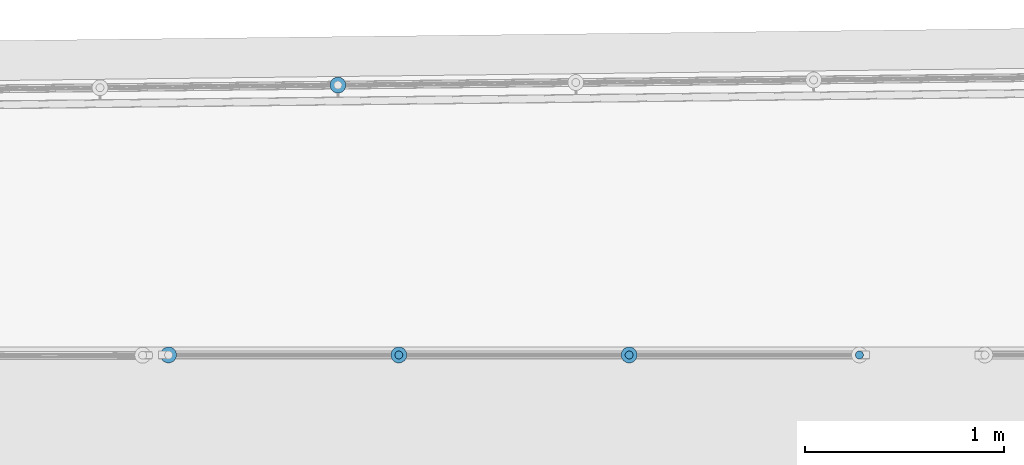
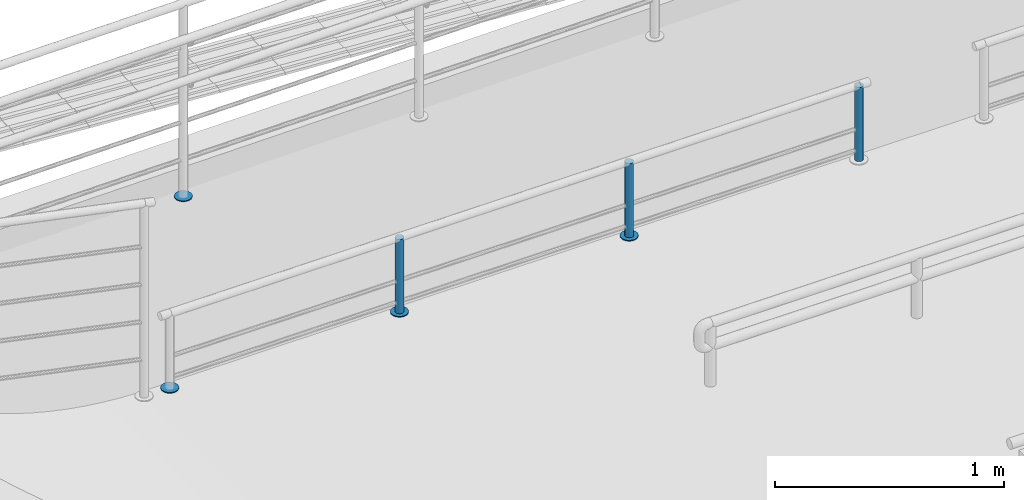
# One storey, part 98 of 237: 7 building element parts, 2 elements without a shape of their own.
"""IFC2X3 building model written with IfcOpenShell, lengths in millimetres."""

from ifc_helpers import new_model, entity, si_unit, converted_unit, derived_unit, money_unit, direction, frame, origin_with_axes, place, context, subcontext, project, spatial, faceted_brep, material, type_object, element, aggregate, save


model = new_model("IFC2X3")

# Units and contexts
model_context = context("Model", 3, precision=0.01, world=origin_with_axes(), true_north=direction((0.0, 1.0)))
body_context = subcontext(model_context, "Body", "Model", "MODEL_VIEW")
ifc_project = project(units=[si_unit("LENGTHUNIT", "METRE", prefix="MILLI"), si_unit("AREAUNIT", "SQUARE_METRE"), si_unit("VOLUMEUNIT", "CUBIC_METRE"), converted_unit("PLANEANGLEUNIT", "DEGREE", entity("IfcPlaneAngleMeasure", 0.0174532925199), si_unit("PLANEANGLEUNIT", "RADIAN"), dimensions=[0, 0, 0, 0, 0, 0, 0]), money_unit("USD"), converted_unit("TIMEUNIT", "Year", entity("IfcTimeMeasure", 31556926.0), si_unit("TIMEUNIT", "SECOND"), dimensions=[0, 0, 1, 0, 0, 0, 0]), si_unit("MASSUNIT", "GRAM", prefix="KILO"), si_unit("THERMODYNAMICTEMPERATUREUNIT", "DEGREE_CELSIUS"), si_unit("LUMINOUSINTENSITYUNIT", "LUMEN"), si_unit("ENERGYUNIT", "JOULE", prefix="MEGA"), derived_unit("THERMALCONDUCTANCEUNIT", [(si_unit("POWERUNIT", "WATT"), 1), (si_unit("LENGTHUNIT", "METRE"), -1), (si_unit("THERMODYNAMICTEMPERATUREUNIT", "KELVIN"), -1)]), derived_unit("SPECIFICHEATCAPACITYUNIT", [(si_unit("ENERGYUNIT", "JOULE"), 1), (si_unit("MASSUNIT", "GRAM", prefix="KILO"), -1), (si_unit("THERMODYNAMICTEMPERATUREUNIT", "KELVIN"), -1)]), derived_unit("MASSDENSITYUNIT", [(si_unit("MASSUNIT", "GRAM", prefix="KILO"), 1), (si_unit("VOLUMEUNIT", "CUBIC_METRE"), -1)])], contexts=[model_context])

# Site, building, storey
site_placement = place(None, origin_with_axes())
site = spatial("IfcSite", under=ifc_project, at=site_placement, Name="Local", CompositionType="ELEMENT")
building_placement = place(site_placement, origin_with_axes())
building = spatial("IfcBuilding", under=site, at=building_placement, Name="Construção", CompositionType="ELEMENT")
storey_placement = place(building_placement, origin_with_axes())
storey = spatial("IfcBuildingStorey", under=building, at=storey_placement, Name="Pavimento Térreo", CompositionType="ELEMENT", Elevation=0.0)

# Railing, building element parts
railing_type = type_object("IfcRailingType", Name="Tipo de Guarda-Corpo", PredefinedType="NOTDEFINED")
railing_1_placement = place(storey_placement, frame((57512.4440926, 33894.9362539, -1887.10818411), z_axis=(0.0, 0.0, 1.0), x_axis=(-1.0, 0.0, 0.0)))
railing_1 = element("IfcRailing", 1, at=railing_1_placement, inside=storey, type_object=railing_type, Name="Guarda-Corpo - 002", PredefinedType="NOTDEFINED")
ifc_material_1 = material(Name="Aço - Inoxidável")
building_element_part_1_placement = place(railing_1_placement, origin_with_axes())
building_element_part_1 = element("IfcBuildingElementPart", 2, at=building_element_part_1_placement, material=ifc_material_1, Name="Aço - Inoxidável", context=body_context, shape_type="Brep", body=[
    faceted_brep([(36.5270364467, 20.3038449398, 635.0), (40.0, 20.0, 635.0), (40.0, 20.0, 1030.0), (36.5270364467, 20.3038449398, 1030.0), (43.4729635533, 20.3038449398, 635.0), (33.1595971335, 21.2061475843, 635.0), (30.0, 22.6794919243, 635.0), (27.1442478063, 24.6791111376, 635.0), (24.6791111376, 27.1442478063, 635.0), (22.6794919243, 30.0, 635.0), (21.2061475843, 33.1595971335, 635.0), (20.3038449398, 36.5270364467, 635.0), (20.0, 40.0, 635.0), (20.3038449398, 43.4729635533, 635.0), (21.2061475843, 46.8404028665, 635.0), (22.6794919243, 50.0, 635.0), (24.6791111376, 52.8557521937, 635.0), (27.1442478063, 55.3208888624, 635.0), (30.0, 57.3205080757, 635.0), (33.1595971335, 58.7938524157, 635.0), (36.5270364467, 59.6961550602, 635.0), (40.0, 60.0, 635.0), (43.4729635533, 59.6961550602, 635.0), (46.8404028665, 58.7938524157, 635.0), (50.0, 57.3205080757, 635.0), (52.8557521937, 55.3208888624, 635.0), (55.3208888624, 52.8557521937, 635.0), (57.3205080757, 50.0, 635.0), (58.7938524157, 46.8404028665, 635.0), (59.6961550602, 43.4729635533, 635.0), (60.0, 40.0, 635.0), (59.6961550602, 36.5270364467, 635.0), (58.7938524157, 33.1595971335, 635.0), (57.3205080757, 30.0, 635.0), (55.3208888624, 27.1442478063, 635.0), (52.8557521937, 24.6791111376, 635.0), (50.0, 22.6794919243, 635.0), (46.8404028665, 21.2061475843, 635.0), (43.4729635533, 20.3038449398, 1030.0), (20.3038449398, 43.4729635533, 1030.0), (20.0, 40.0, 1030.0), (20.3038449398, 36.5270364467, 1030.0), (21.2061475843, 33.1595971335, 1030.0), (22.6794919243, 30.0, 1030.0), (24.6791111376, 27.1442478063, 1030.0), (27.1442478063, 24.6791111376, 1030.0), (30.0, 22.6794919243, 1030.0), (33.1595971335, 21.2061475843, 1030.0), (46.8404028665, 21.2061475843, 1030.0), (50.0, 22.6794919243, 1030.0), (52.8557521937, 24.6791111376, 1030.0), (55.3208888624, 27.1442478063, 1030.0), (57.3205080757, 30.0, 1030.0), (58.7938524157, 33.1595971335, 1030.0), (59.6961550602, 36.5270364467, 1030.0), (60.0, 40.0, 1030.0), (59.6961550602, 43.4729635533, 1030.0), (58.7938524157, 46.8404028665, 1030.0), (57.3205080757, 50.0, 1030.0), (55.3208888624, 52.8557521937, 1030.0), (52.8557521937, 55.3208888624, 1030.0), (50.0, 57.3205080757, 1030.0), (46.8404028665, 58.7938524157, 1030.0), (43.4729635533, 59.6961550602, 1030.0), (40.0, 60.0, 1030.0), (36.5270364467, 59.6961550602, 1030.0), (33.1595971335, 58.7938524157, 1030.0), (30.0, 57.3205080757, 1030.0), (27.1442478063, 55.3208888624, 1030.0), (24.6791111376, 52.8557521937, 1030.0), (22.6794919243, 50.0, 1030.0), (21.2061475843, 46.8404028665, 1030.0)], [[[0, 1, 2, 3]], [[4, 1, 0, 5, 6, 7, 8, 9, 10, 11, 12, 13, 14, 15, 16, 17, 18, 19, 20, 21, 22, 23, 24, 25, 26, 27, 28, 29, 30, 31, 32, 33, 34, 35, 36, 37]], [[1, 4, 38, 2]], [[39, 40, 41, 42, 43, 44, 45, 46, 47, 3, 2, 38, 48, 49, 50, 51, 52, 53, 54, 55, 56, 57, 58, 59, 60, 61, 62, 63, 64, 65, 66, 67, 68, 69, 70, 71]], [[5, 0, 3, 47]], [[6, 5, 47, 46]], [[7, 6, 46, 45]], [[8, 7, 45, 44]], [[9, 8, 44, 43]], [[10, 9, 43, 42]], [[11, 10, 42, 41]], [[12, 11, 41, 40]], [[13, 12, 40, 39]], [[14, 13, 39, 71]], [[15, 14, 71, 70]], [[16, 15, 70, 69]], [[17, 16, 69, 68]], [[18, 17, 68, 67]], [[19, 18, 67, 66]], [[20, 19, 66, 65]], [[21, 20, 65, 64]], [[22, 21, 64, 63]], [[23, 22, 63, 62]], [[24, 23, 62, 61]], [[25, 24, 61, 60]], [[26, 25, 60, 59]], [[27, 26, 59, 58]], [[28, 27, 58, 57]], [[29, 28, 57, 56]], [[30, 29, 56, 55]], [[31, 30, 55, 54]], [[32, 31, 54, 53]], [[33, 32, 53, 52]], [[34, 33, 52, 51]], [[35, 34, 51, 50]], [[36, 35, 50, 49]], [[37, 36, 49, 48]], [[4, 37, 48, 38]]]),
])
ifc_material_2 = material(Name="Alumínio")
building_element_part_2_placement = place(railing_1_placement, origin_with_axes())
building_element_part_2 = element("IfcBuildingElementPart", 3, at=building_element_part_2_placement, material=ifc_material_2, Name="Alumínio", context=body_context, shape_type="Brep", body=[
    faceted_brep([(3550.0, 40.0, 630.0), (3549.39231012, 46.9459271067, 630.0), (3549.39231012, 46.9459271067, 635.0), (3550.0, 40.0, 635.0), (3549.39231012, 33.0540728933, 630.0), (3547.58770483, 26.319194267, 630.0), (3544.64101615, 20.0, 630.0), (3540.64177772, 14.2884956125, 630.0), (3535.71150439, 9.35822227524, 630.0), (3530.0, 5.35898384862, 630.0), (3523.68080573, 2.41229516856, 630.0), (3516.94592711, 0.607689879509, 630.0), (3510.0, 0.0, 630.0), (3503.05407289, 0.607689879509, 630.0), (3496.31919427, 2.41229516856, 630.0), (3490.0, 5.35898384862, 630.0), (3484.28849561, 9.35822227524, 630.0), (3479.35822228, 14.2884956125, 630.0), (3475.35898385, 20.0, 630.0), (3472.41229517, 26.319194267, 630.0), (3470.60768988, 33.0540728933, 630.0), (3470.0, 40.0, 630.0), (3470.60768988, 46.9459271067, 630.0), (3472.41229517, 53.680805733, 630.0), (3475.35898385, 60.0, 630.0), (3479.35822228, 65.7115043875, 630.0), (3484.28849561, 70.6417777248, 630.0), (3490.0, 74.6410161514, 630.0), (3496.31919427, 77.5877048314, 630.0), (3503.05407289, 79.3923101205, 630.0), (3510.0, 80.0, 630.0), (3516.94592711, 79.3923101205, 630.0), (3523.68080573, 77.5877048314, 630.0), (3530.0, 74.6410161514, 630.0), (3535.71150439, 70.6417777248, 630.0), (3540.64177772, 65.7115043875, 630.0), (3544.64101615, 60.0, 630.0), (3547.58770483, 53.680805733, 630.0), (3547.58770483, 53.680805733, 635.0), (3544.64101615, 60.0, 635.0), (3540.64177772, 65.7115043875, 635.0), (3535.71150439, 70.6417777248, 635.0), (3530.0, 74.6410161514, 635.0), (3523.68080573, 77.5877048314, 635.0), (3516.94592711, 79.3923101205, 635.0), (3510.0, 80.0, 635.0), (3503.05407289, 79.3923101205, 635.0), (3496.31919427, 77.5877048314, 635.0), (3490.0, 74.6410161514, 635.0), (3484.28849561, 70.6417777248, 635.0), (3479.35822228, 65.7115043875, 635.0), (3475.35898385, 60.0, 635.0), (3472.41229517, 53.680805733, 635.0), (3470.60768988, 46.9459271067, 635.0), (3470.0, 40.0, 635.0), (3470.60768988, 33.0540728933, 635.0), (3472.41229517, 26.319194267, 635.0), (3475.35898385, 20.0, 635.0), (3479.35822228, 14.2884956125, 635.0), (3484.28849561, 9.35822227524, 635.0), (3490.0, 5.35898384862, 635.0), (3496.31919427, 2.41229516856, 635.0), (3503.05407289, 0.607689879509, 635.0), (3510.0, 0.0, 635.0), (3516.94592711, 0.607689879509, 635.0), (3523.68080573, 2.41229516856, 635.0), (3530.0, 5.35898384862, 635.0), (3535.71150439, 9.35822227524, 635.0), (3540.64177772, 14.2884956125, 635.0), (3544.64101615, 20.0, 635.0), (3547.58770483, 26.319194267, 635.0), (3549.39231012, 33.0540728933, 635.0)], [[[0, 1, 2, 3]], [[0, 4, 5, 6, 7, 8, 9, 10, 11, 12, 13, 14, 15, 16, 17, 18, 19, 20, 21, 22, 23, 24, 25, 26, 27, 28, 29, 30, 31, 32, 33, 34, 35, 36, 37, 1]], [[1, 37, 38, 2]], [[3, 2, 38, 39, 40, 41, 42, 43, 44, 45, 46, 47, 48, 49, 50, 51, 52, 53, 54, 55, 56, 57, 58, 59, 60, 61, 62, 63, 64, 65, 66, 67, 68, 69, 70, 71]], [[4, 0, 3, 71]], [[5, 4, 71, 70]], [[6, 5, 70, 69]], [[7, 6, 69, 68]], [[8, 7, 68, 67]], [[9, 8, 67, 66]], [[10, 9, 66, 65]], [[11, 10, 65, 64]], [[12, 11, 64, 63]], [[13, 12, 63, 62]], [[14, 13, 62, 61]], [[15, 14, 61, 60]], [[16, 15, 60, 59]], [[17, 16, 59, 58]], [[18, 17, 58, 57]], [[19, 18, 57, 56]], [[20, 19, 56, 55]], [[21, 20, 55, 54]], [[22, 21, 54, 53]], [[23, 22, 53, 52]], [[24, 23, 52, 51]], [[25, 24, 51, 50]], [[26, 25, 50, 49]], [[27, 26, 49, 48]], [[28, 27, 48, 47]], [[29, 28, 47, 46]], [[30, 29, 46, 45]], [[31, 30, 45, 44]], [[32, 31, 44, 43]], [[33, 32, 43, 42]], [[34, 33, 42, 41]], [[35, 34, 41, 40]], [[36, 35, 40, 39]], [[37, 36, 39, 38]]]),
])
building_element_part_3_placement = place(railing_1_placement, origin_with_axes())
building_element_part_3 = element("IfcBuildingElementPart", 4, at=building_element_part_3_placement, material=ifc_material_1, Name="Aço - Inoxidável", context=body_context, shape_type="Brep", body=[
    faceted_brep([(1193.19370311, 20.3038449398, 635.0), (1196.66666667, 20.0, 635.0), (1196.66666667, 20.0, 1030.0), (1193.19370311, 20.3038449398, 1030.0), (1200.13963022, 20.3038449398, 635.0), (1189.8262638, 21.2061475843, 635.0), (1186.66666667, 22.6794919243, 635.0), (1183.81091447, 24.6791111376, 635.0), (1181.3457778, 27.1442478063, 635.0), (1179.34615859, 30.0, 635.0), (1177.87281425, 33.1595971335, 635.0), (1176.97051161, 36.5270364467, 635.0), (1176.66666667, 40.0, 635.0), (1176.97051161, 43.4729635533, 635.0), (1177.87281425, 46.8404028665, 635.0), (1179.34615859, 50.0, 635.0), (1181.3457778, 52.8557521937, 635.0), (1183.81091447, 55.3208888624, 635.0), (1186.66666667, 57.3205080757, 635.0), (1189.8262638, 58.7938524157, 635.0), (1193.19370311, 59.6961550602, 635.0), (1196.66666667, 60.0, 635.0), (1200.13963022, 59.6961550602, 635.0), (1203.50706953, 58.7938524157, 635.0), (1206.66666667, 57.3205080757, 635.0), (1209.52241886, 55.3208888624, 635.0), (1211.98755553, 52.8557521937, 635.0), (1213.98717474, 50.0, 635.0), (1215.46051908, 46.8404028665, 635.0), (1216.36282173, 43.4729635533, 635.0), (1216.66666667, 40.0, 635.0), (1216.36282173, 36.5270364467, 635.0), (1215.46051908, 33.1595971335, 635.0), (1213.98717474, 30.0, 635.0), (1211.98755553, 27.1442478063, 635.0), (1209.52241886, 24.6791111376, 635.0), (1206.66666667, 22.6794919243, 635.0), (1203.50706953, 21.2061475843, 635.0), (1200.13963022, 20.3038449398, 1030.0), (1176.97051161, 43.4729635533, 1030.0), (1176.66666667, 40.0, 1030.0), (1176.97051161, 36.5270364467, 1030.0), (1177.87281425, 33.1595971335, 1030.0), (1179.34615859, 30.0, 1030.0), (1181.3457778, 27.1442478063, 1030.0), (1183.81091447, 24.6791111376, 1030.0), (1186.66666667, 22.6794919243, 1030.0), (1189.8262638, 21.2061475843, 1030.0), (1203.50706953, 21.2061475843, 1030.0), (1206.66666667, 22.6794919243, 1030.0), (1209.52241886, 24.6791111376, 1030.0), (1211.98755553, 27.1442478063, 1030.0), (1213.98717474, 30.0, 1030.0), (1215.46051908, 33.1595971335, 1030.0), (1216.36282173, 36.5270364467, 1030.0), (1216.66666667, 40.0, 1030.0), (1216.36282173, 43.4729635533, 1030.0), (1215.46051908, 46.8404028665, 1030.0), (1213.98717474, 50.0, 1030.0), (1211.98755553, 52.8557521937, 1030.0), (1209.52241886, 55.3208888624, 1030.0), (1206.66666667, 57.3205080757, 1030.0), (1203.50706953, 58.7938524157, 1030.0), (1200.13963022, 59.6961550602, 1030.0), (1196.66666667, 60.0, 1030.0), (1193.19370311, 59.6961550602, 1030.0), (1189.8262638, 58.7938524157, 1030.0), (1186.66666667, 57.3205080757, 1030.0), (1183.81091447, 55.3208888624, 1030.0), (1181.3457778, 52.8557521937, 1030.0), (1179.34615859, 50.0, 1030.0), (1177.87281425, 46.8404028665, 1030.0)], [[[0, 1, 2, 3]], [[4, 1, 0, 5, 6, 7, 8, 9, 10, 11, 12, 13, 14, 15, 16, 17, 18, 19, 20, 21, 22, 23, 24, 25, 26, 27, 28, 29, 30, 31, 32, 33, 34, 35, 36, 37]], [[1, 4, 38, 2]], [[39, 40, 41, 42, 43, 44, 45, 46, 47, 3, 2, 38, 48, 49, 50, 51, 52, 53, 54, 55, 56, 57, 58, 59, 60, 61, 62, 63, 64, 65, 66, 67, 68, 69, 70, 71]], [[5, 0, 3, 47]], [[6, 5, 47, 46]], [[7, 6, 46, 45]], [[8, 7, 45, 44]], [[9, 8, 44, 43]], [[10, 9, 43, 42]], [[11, 10, 42, 41]], [[12, 11, 41, 40]], [[13, 12, 40, 39]], [[14, 13, 39, 71]], [[15, 14, 71, 70]], [[16, 15, 70, 69]], [[17, 16, 69, 68]], [[18, 17, 68, 67]], [[19, 18, 67, 66]], [[20, 19, 66, 65]], [[21, 20, 65, 64]], [[22, 21, 64, 63]], [[23, 22, 63, 62]], [[24, 23, 62, 61]], [[25, 24, 61, 60]], [[26, 25, 60, 59]], [[27, 26, 59, 58]], [[28, 27, 58, 57]], [[29, 28, 57, 56]], [[30, 29, 56, 55]], [[31, 30, 55, 54]], [[32, 31, 54, 53]], [[33, 32, 53, 52]], [[34, 33, 52, 51]], [[35, 34, 51, 50]], [[36, 35, 50, 49]], [[37, 36, 49, 48]], [[4, 37, 48, 38]]]),
])
building_element_part_4_placement = place(railing_1_placement, origin_with_axes())
building_element_part_4 = element("IfcBuildingElementPart", 5, at=building_element_part_4_placement, material=ifc_material_2, Name="Alumínio", context=body_context, shape_type="Brep", body=[
    faceted_brep([(1236.66666667, 40.0, 630.0), (1236.05897679, 46.9459271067, 630.0), (1236.05897679, 46.9459271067, 635.0), (1236.66666667, 40.0, 635.0), (1236.05897679, 33.0540728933, 630.0), (1234.2543715, 26.319194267, 630.0), (1231.30768282, 20.0, 630.0), (1227.30844439, 14.2884956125, 630.0), (1222.37817105, 9.35822227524, 630.0), (1216.66666667, 5.35898384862, 630.0), (1210.3474724, 2.41229516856, 630.0), (1203.61259377, 0.607689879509, 630.0), (1196.66666667, 0.0, 630.0), (1189.72073956, 0.607689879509, 630.0), (1182.98586093, 2.41229516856, 630.0), (1176.66666667, 5.35898384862, 630.0), (1170.95516228, 9.35822227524, 630.0), (1166.02488894, 14.2884956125, 630.0), (1162.02565052, 20.0, 630.0), (1159.07896184, 26.319194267, 630.0), (1157.27435655, 33.0540728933, 630.0), (1156.66666667, 40.0, 630.0), (1157.27435655, 46.9459271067, 630.0), (1159.07896184, 53.680805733, 630.0), (1162.02565052, 60.0, 630.0), (1166.02488894, 65.7115043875, 630.0), (1170.95516228, 70.6417777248, 630.0), (1176.66666667, 74.6410161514, 630.0), (1182.98586093, 77.5877048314, 630.0), (1189.72073956, 79.3923101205, 630.0), (1196.66666667, 80.0, 630.0), (1203.61259377, 79.3923101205, 630.0), (1210.3474724, 77.5877048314, 630.0), (1216.66666667, 74.6410161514, 630.0), (1222.37817105, 70.6417777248, 630.0), (1227.30844439, 65.7115043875, 630.0), (1231.30768282, 60.0, 630.0), (1234.2543715, 53.680805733, 630.0), (1234.2543715, 53.680805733, 635.0), (1231.30768282, 60.0, 635.0), (1227.30844439, 65.7115043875, 635.0), (1222.37817105, 70.6417777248, 635.0), (1216.66666667, 74.6410161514, 635.0), (1210.3474724, 77.5877048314, 635.0), (1203.61259377, 79.3923101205, 635.0), (1196.66666667, 80.0, 635.0), (1189.72073956, 79.3923101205, 635.0), (1182.98586093, 77.5877048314, 635.0), (1176.66666667, 74.6410161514, 635.0), (1170.95516228, 70.6417777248, 635.0), (1166.02488894, 65.7115043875, 635.0), (1162.02565052, 60.0, 635.0), (1159.07896184, 53.680805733, 635.0), (1157.27435655, 46.9459271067, 635.0), (1156.66666667, 40.0, 635.0), (1157.27435655, 33.0540728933, 635.0), (1159.07896184, 26.319194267, 635.0), (1162.02565052, 20.0, 635.0), (1166.02488894, 14.2884956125, 635.0), (1170.95516228, 9.35822227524, 635.0), (1176.66666667, 5.35898384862, 635.0), (1182.98586093, 2.41229516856, 635.0), (1189.72073956, 0.607689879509, 635.0), (1196.66666667, 0.0, 635.0), (1203.61259377, 0.607689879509, 635.0), (1210.3474724, 2.41229516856, 635.0), (1216.66666667, 5.35898384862, 635.0), (1222.37817105, 9.35822227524, 635.0), (1227.30844439, 14.2884956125, 635.0), (1231.30768282, 20.0, 635.0), (1234.2543715, 26.319194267, 635.0), (1236.05897679, 33.0540728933, 635.0)], [[[0, 1, 2, 3]], [[0, 4, 5, 6, 7, 8, 9, 10, 11, 12, 13, 14, 15, 16, 17, 18, 19, 20, 21, 22, 23, 24, 25, 26, 27, 28, 29, 30, 31, 32, 33, 34, 35, 36, 37, 1]], [[1, 37, 38, 2]], [[3, 2, 38, 39, 40, 41, 42, 43, 44, 45, 46, 47, 48, 49, 50, 51, 52, 53, 54, 55, 56, 57, 58, 59, 60, 61, 62, 63, 64, 65, 66, 67, 68, 69, 70, 71]], [[4, 0, 3, 71]], [[5, 4, 71, 70]], [[6, 5, 70, 69]], [[7, 6, 69, 68]], [[8, 7, 68, 67]], [[9, 8, 67, 66]], [[10, 9, 66, 65]], [[11, 10, 65, 64]], [[12, 11, 64, 63]], [[13, 12, 63, 62]], [[14, 13, 62, 61]], [[15, 14, 61, 60]], [[16, 15, 60, 59]], [[17, 16, 59, 58]], [[18, 17, 58, 57]], [[19, 18, 57, 56]], [[20, 19, 56, 55]], [[21, 20, 55, 54]], [[22, 21, 54, 53]], [[23, 22, 53, 52]], [[24, 23, 52, 51]], [[25, 24, 51, 50]], [[26, 25, 50, 49]], [[27, 26, 49, 48]], [[28, 27, 48, 47]], [[29, 28, 47, 46]], [[30, 29, 46, 45]], [[31, 30, 45, 44]], [[32, 31, 44, 43]], [[33, 32, 43, 42]], [[34, 33, 42, 41]], [[35, 34, 41, 40]], [[36, 35, 40, 39]], [[37, 36, 39, 38]]]),
])
building_element_part_5_placement = place(railing_1_placement, origin_with_axes())
building_element_part_5 = element("IfcBuildingElementPart", 6, at=building_element_part_5_placement, material=ifc_material_1, Name="Aço - Inoxidável", context=body_context, shape_type="Brep", body=[
    faceted_brep([(2349.86036978, 20.3038449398, 635.0), (2353.33333333, 20.0, 635.0), (2353.33333333, 20.0, 1030.0), (2349.86036978, 20.3038449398, 1030.0), (2356.80629689, 20.3038449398, 635.0), (2346.49293047, 21.2061475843, 635.0), (2343.33333333, 22.6794919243, 635.0), (2340.47758114, 24.6791111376, 635.0), (2338.01244447, 27.1442478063, 635.0), (2336.01282526, 30.0, 635.0), (2334.53948092, 33.1595971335, 635.0), (2333.63717827, 36.5270364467, 635.0), (2333.33333333, 40.0, 635.0), (2333.63717827, 43.4729635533, 635.0), (2334.53948092, 46.8404028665, 635.0), (2336.01282526, 50.0, 635.0), (2338.01244447, 52.8557521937, 635.0), (2340.47758114, 55.3208888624, 635.0), (2343.33333333, 57.3205080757, 635.0), (2346.49293047, 58.7938524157, 635.0), (2349.86036978, 59.6961550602, 635.0), (2353.33333333, 60.0, 635.0), (2356.80629689, 59.6961550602, 635.0), (2360.1737362, 58.7938524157, 635.0), (2363.33333333, 57.3205080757, 635.0), (2366.18908553, 55.3208888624, 635.0), (2368.6542222, 52.8557521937, 635.0), (2370.65384141, 50.0, 635.0), (2372.12718575, 46.8404028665, 635.0), (2373.02948839, 43.4729635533, 635.0), (2373.33333333, 40.0, 635.0), (2373.02948839, 36.5270364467, 635.0), (2372.12718575, 33.1595971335, 635.0), (2370.65384141, 30.0, 635.0), (2368.6542222, 27.1442478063, 635.0), (2366.18908553, 24.6791111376, 635.0), (2363.33333333, 22.6794919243, 635.0), (2360.1737362, 21.2061475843, 635.0), (2356.80629689, 20.3038449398, 1030.0), (2333.63717827, 43.4729635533, 1030.0), (2333.33333333, 40.0, 1030.0), (2333.63717827, 36.5270364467, 1030.0), (2334.53948092, 33.1595971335, 1030.0), (2336.01282526, 30.0, 1030.0), (2338.01244447, 27.1442478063, 1030.0), (2340.47758114, 24.6791111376, 1030.0), (2343.33333333, 22.6794919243, 1030.0), (2346.49293047, 21.2061475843, 1030.0), (2360.1737362, 21.2061475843, 1030.0), (2363.33333333, 22.6794919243, 1030.0), (2366.18908553, 24.6791111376, 1030.0), (2368.6542222, 27.1442478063, 1030.0), (2370.65384141, 30.0, 1030.0), (2372.12718575, 33.1595971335, 1030.0), (2373.02948839, 36.5270364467, 1030.0), (2373.33333333, 40.0, 1030.0), (2373.02948839, 43.4729635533, 1030.0), (2372.12718575, 46.8404028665, 1030.0), (2370.65384141, 50.0, 1030.0), (2368.6542222, 52.8557521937, 1030.0), (2366.18908553, 55.3208888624, 1030.0), (2363.33333333, 57.3205080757, 1030.0), (2360.1737362, 58.7938524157, 1030.0), (2356.80629689, 59.6961550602, 1030.0), (2353.33333333, 60.0, 1030.0), (2349.86036978, 59.6961550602, 1030.0), (2346.49293047, 58.7938524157, 1030.0), (2343.33333333, 57.3205080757, 1030.0), (2340.47758114, 55.3208888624, 1030.0), (2338.01244447, 52.8557521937, 1030.0), (2336.01282526, 50.0, 1030.0), (2334.53948092, 46.8404028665, 1030.0)], [[[0, 1, 2, 3]], [[4, 1, 0, 5, 6, 7, 8, 9, 10, 11, 12, 13, 14, 15, 16, 17, 18, 19, 20, 21, 22, 23, 24, 25, 26, 27, 28, 29, 30, 31, 32, 33, 34, 35, 36, 37]], [[1, 4, 38, 2]], [[39, 40, 41, 42, 43, 44, 45, 46, 47, 3, 2, 38, 48, 49, 50, 51, 52, 53, 54, 55, 56, 57, 58, 59, 60, 61, 62, 63, 64, 65, 66, 67, 68, 69, 70, 71]], [[5, 0, 3, 47]], [[6, 5, 47, 46]], [[7, 6, 46, 45]], [[8, 7, 45, 44]], [[9, 8, 44, 43]], [[10, 9, 43, 42]], [[11, 10, 42, 41]], [[12, 11, 41, 40]], [[13, 12, 40, 39]], [[14, 13, 39, 71]], [[15, 14, 71, 70]], [[16, 15, 70, 69]], [[17, 16, 69, 68]], [[18, 17, 68, 67]], [[19, 18, 67, 66]], [[20, 19, 66, 65]], [[21, 20, 65, 64]], [[22, 21, 64, 63]], [[23, 22, 63, 62]], [[24, 23, 62, 61]], [[25, 24, 61, 60]], [[26, 25, 60, 59]], [[27, 26, 59, 58]], [[28, 27, 58, 57]], [[29, 28, 57, 56]], [[30, 29, 56, 55]], [[31, 30, 55, 54]], [[32, 31, 54, 53]], [[33, 32, 53, 52]], [[34, 33, 52, 51]], [[35, 34, 51, 50]], [[36, 35, 50, 49]], [[37, 36, 49, 48]], [[4, 37, 48, 38]]]),
])
building_element_part_6_placement = place(railing_1_placement, origin_with_axes())
building_element_part_6 = element("IfcBuildingElementPart", 7, at=building_element_part_6_placement, material=ifc_material_2, Name="Alumínio", context=body_context, shape_type="Brep", body=[
    faceted_brep([(2393.33333333, 40.0, 630.0), (2392.72564345, 46.9459271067, 630.0), (2392.72564345, 46.9459271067, 635.0), (2393.33333333, 40.0, 635.0), (2392.72564345, 33.0540728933, 630.0), (2390.92103816, 26.319194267, 630.0), (2387.97434948, 20.0, 630.0), (2383.97511106, 14.2884956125, 630.0), (2379.04483772, 9.35822227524, 630.0), (2373.33333333, 5.35898384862, 630.0), (2367.01413907, 2.41229516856, 630.0), (2360.27926044, 0.607689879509, 630.0), (2353.33333333, 0.0, 630.0), (2346.38740623, 0.607689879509, 630.0), (2339.6525276, 2.41229516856, 630.0), (2333.33333333, 5.35898384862, 630.0), (2327.62182895, 9.35822227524, 630.0), (2322.69155561, 14.2884956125, 630.0), (2318.69231718, 20.0, 630.0), (2315.7456285, 26.319194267, 630.0), (2313.94102321, 33.0540728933, 630.0), (2313.33333333, 40.0, 630.0), (2313.94102321, 46.9459271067, 630.0), (2315.7456285, 53.680805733, 630.0), (2318.69231718, 60.0, 630.0), (2322.69155561, 65.7115043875, 630.0), (2327.62182895, 70.6417777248, 630.0), (2333.33333333, 74.6410161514, 630.0), (2339.6525276, 77.5877048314, 630.0), (2346.38740623, 79.3923101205, 630.0), (2353.33333333, 80.0, 630.0), (2360.27926044, 79.3923101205, 630.0), (2367.01413907, 77.5877048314, 630.0), (2373.33333333, 74.6410161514, 630.0), (2379.04483772, 70.6417777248, 630.0), (2383.97511106, 65.7115043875, 630.0), (2387.97434948, 60.0, 630.0), (2390.92103816, 53.680805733, 630.0), (2390.92103816, 53.680805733, 635.0), (2387.97434948, 60.0, 635.0), (2383.97511106, 65.7115043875, 635.0), (2379.04483772, 70.6417777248, 635.0), (2373.33333333, 74.6410161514, 635.0), (2367.01413907, 77.5877048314, 635.0), (2360.27926044, 79.3923101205, 635.0), (2353.33333333, 80.0, 635.0), (2346.38740623, 79.3923101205, 635.0), (2339.6525276, 77.5877048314, 635.0), (2333.33333333, 74.6410161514, 635.0), (2327.62182895, 70.6417777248, 635.0), (2322.69155561, 65.7115043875, 635.0), (2318.69231718, 60.0, 635.0), (2315.7456285, 53.680805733, 635.0), (2313.94102321, 46.9459271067, 635.0), (2313.33333333, 40.0, 635.0), (2313.94102321, 33.0540728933, 635.0), (2315.7456285, 26.319194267, 635.0), (2318.69231718, 20.0, 635.0), (2322.69155561, 14.2884956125, 635.0), (2327.62182895, 9.35822227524, 635.0), (2333.33333333, 5.35898384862, 635.0), (2339.6525276, 2.41229516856, 635.0), (2346.38740623, 0.607689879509, 635.0), (2353.33333333, 0.0, 635.0), (2360.27926044, 0.607689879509, 635.0), (2367.01413907, 2.41229516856, 635.0), (2373.33333333, 5.35898384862, 635.0), (2379.04483772, 9.35822227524, 635.0), (2383.97511106, 14.2884956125, 635.0), (2387.97434948, 20.0, 635.0), (2390.92103816, 26.319194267, 635.0), (2392.72564345, 33.0540728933, 635.0)], [[[0, 1, 2, 3]], [[0, 4, 5, 6, 7, 8, 9, 10, 11, 12, 13, 14, 15, 16, 17, 18, 19, 20, 21, 22, 23, 24, 25, 26, 27, 28, 29, 30, 31, 32, 33, 34, 35, 36, 37, 1]], [[1, 37, 38, 2]], [[3, 2, 38, 39, 40, 41, 42, 43, 44, 45, 46, 47, 48, 49, 50, 51, 52, 53, 54, 55, 56, 57, 58, 59, 60, 61, 62, 63, 64, 65, 66, 67, 68, 69, 70, 71]], [[4, 0, 3, 71]], [[5, 4, 71, 70]], [[6, 5, 70, 69]], [[7, 6, 69, 68]], [[8, 7, 68, 67]], [[9, 8, 67, 66]], [[10, 9, 66, 65]], [[11, 10, 65, 64]], [[12, 11, 64, 63]], [[13, 12, 63, 62]], [[14, 13, 62, 61]], [[15, 14, 61, 60]], [[16, 15, 60, 59]], [[17, 16, 59, 58]], [[18, 17, 58, 57]], [[19, 18, 57, 56]], [[20, 19, 56, 55]], [[21, 20, 55, 54]], [[22, 21, 54, 53]], [[23, 22, 53, 52]], [[24, 23, 52, 51]], [[25, 24, 51, 50]], [[26, 25, 50, 49]], [[27, 26, 49, 48]], [[28, 27, 48, 47]], [[29, 28, 47, 46]], [[30, 29, 46, 45]], [[31, 30, 45, 44]], [[32, 31, 44, 43]], [[33, 32, 43, 42]], [[34, 33, 42, 41]], [[35, 34, 41, 40]], [[36, 35, 40, 39]], [[37, 36, 39, 38]]]),
])
aggregate(railing_1, [building_element_part_1, building_element_part_2, building_element_part_3, building_element_part_4, building_element_part_5, building_element_part_6])

# Railing, building element part
railing_2_placement = place(storey_placement, frame((70326.6870103, 28675.2458388, -1357.10819655), z_axis=(0.0, 0.0, 1.0), x_axis=(1.0, 0.0, 0.0)))
railing_2 = element("IfcRailing", 8, at=railing_2_placement, inside=storey, type_object=railing_type, Name="Guarda-Corpo - 004", PredefinedType="NOTDEFINED")
building_element_part_7_placement = place(railing_2_placement, origin_with_axes())
building_element_part_7 = element("IfcBuildingElementPart", 9, at=building_element_part_7_placement, material=ifc_material_2, Name="Alumínio", context=body_context, shape_type="Brep", body=[
    faceted_brep([(-15513.6108898, 6534.62460551, 0.0), (-15512.9276917, 6527.68569848, 0.0), (-15512.9276917, 6527.68569848, 5.0), (-15513.6108898, 6534.62460551, 5.0), (-15513.07878, 6541.57673105, 0.0), (-15511.3475302, 6548.33083828, 0.0), (-15508.4697435, 6554.68170708, 0.0), (-15504.5328602, 6560.43636951, 0.0), (-15499.6565003, 6565.41997306, 0.0), (-15493.9888295, 6569.48109346, 0.0), (-15487.7020573, 6572.49633562, 0.0), (-15480.987204, 6574.37408295, 0.0), (-15474.0482969, 6575.05728102, 0.0), (-15467.0961714, 6574.52517122, 0.0), (-15460.3420642, 6572.79392143, 0.0), (-15453.9911954, 6569.91613481, 0.0), (-15448.2365329, 6565.97925143, 0.0), (-15443.2529294, 6561.10289152, 0.0), (-15439.191809, 6555.43522079, 0.0), (-15436.1765668, 6549.14844857, 0.0), (-15434.2988195, 6542.43359523, 0.0), (-15433.6156214, 6535.4946882, 0.0), (-15434.1477312, 6528.54256266, 0.0), (-15435.878981, 6521.78845542, 0.0), (-15438.7567676, 6515.43758663, 0.0), (-15442.693651, 6509.6829242, 0.0), (-15447.5700109, 6504.69932065, 0.0), (-15453.2376816, 6500.63820024, 0.0), (-15459.5244539, 6497.62295808, 0.0), (-15466.2393072, 6495.74521076, 0.0), (-15473.1782142, 6495.06201268, 0.0), (-15480.1303398, 6495.59412248, 0.0), (-15486.884447, 6497.32537227, 0.0), (-15493.2353158, 6500.2031589, 0.0), (-15498.9899782, 6504.14004227, 0.0), (-15503.9735818, 6509.01640219, 0.0), (-15508.0347022, 6514.68407291, 0.0), (-15511.0499444, 6520.97084514, 0.0), (-15511.0499444, 6520.97084514, 5.0), (-15508.0347022, 6514.68407291, 5.0), (-15503.9735818, 6509.01640219, 5.0), (-15498.9899782, 6504.14004227, 5.0), (-15493.2353158, 6500.2031589, 5.0), (-15486.884447, 6497.32537227, 5.0), (-15480.1303398, 6495.59412248, 5.0), (-15473.1782142, 6495.06201268, 5.0), (-15466.2393072, 6495.74521076, 5.0), (-15459.5244539, 6497.62295808, 5.0), (-15453.2376816, 6500.63820024, 5.0), (-15447.5700109, 6504.69932065, 5.0), (-15442.693651, 6509.6829242, 5.0), (-15438.7567676, 6515.43758663, 5.0), (-15435.878981, 6521.78845542, 5.0), (-15434.1477312, 6528.54256266, 5.0), (-15433.6156214, 6535.4946882, 5.0), (-15434.2988195, 6542.43359523, 5.0), (-15436.1765668, 6549.14844857, 5.0), (-15439.191809, 6555.43522079, 5.0), (-15443.2529294, 6561.10289152, 5.0), (-15448.2365329, 6565.97925143, 5.0), (-15453.9911954, 6569.91613481, 5.0), (-15460.3420642, 6572.79392143, 5.0), (-15467.0961714, 6574.52517122, 5.0), (-15474.0482969, 6575.05728102, 5.0), (-15480.987204, 6574.37408295, 5.0), (-15487.7020573, 6572.49633562, 5.0), (-15493.9888295, 6569.48109346, 5.0), (-15499.6565003, 6565.41997306, 5.0), (-15504.5328602, 6560.43636951, 5.0), (-15508.4697435, 6554.68170708, 5.0), (-15511.3475302, 6548.33083828, 5.0), (-15513.07878, 6541.57673105, 5.0)], [[[0, 1, 2, 3]], [[0, 4, 5, 6, 7, 8, 9, 10, 11, 12, 13, 14, 15, 16, 17, 18, 19, 20, 21, 22, 23, 24, 25, 26, 27, 28, 29, 30, 31, 32, 33, 34, 35, 36, 37, 1]], [[1, 37, 38, 2]], [[3, 2, 38, 39, 40, 41, 42, 43, 44, 45, 46, 47, 48, 49, 50, 51, 52, 53, 54, 55, 56, 57, 58, 59, 60, 61, 62, 63, 64, 65, 66, 67, 68, 69, 70, 71]], [[4, 0, 3, 71]], [[5, 4, 71, 70]], [[6, 5, 70, 69]], [[7, 6, 69, 68]], [[8, 7, 68, 67]], [[9, 8, 67, 66]], [[10, 9, 66, 65]], [[11, 10, 65, 64]], [[12, 11, 64, 63]], [[13, 12, 63, 62]], [[14, 13, 62, 61]], [[15, 14, 61, 60]], [[16, 15, 60, 59]], [[17, 16, 59, 58]], [[18, 17, 58, 57]], [[19, 18, 57, 56]], [[20, 19, 56, 55]], [[21, 20, 55, 54]], [[22, 21, 54, 53]], [[23, 22, 53, 52]], [[24, 23, 52, 51]], [[25, 24, 51, 50]], [[26, 25, 50, 49]], [[27, 26, 49, 48]], [[28, 27, 48, 47]], [[29, 28, 47, 46]], [[30, 29, 46, 45]], [[31, 30, 45, 44]], [[32, 31, 44, 43]], [[33, 32, 43, 42]], [[34, 33, 42, 41]], [[35, 34, 41, 40]], [[36, 35, 40, 39]], [[37, 36, 39, 38]]]),
])
aggregate(railing_2, [building_element_part_7])

save(model, "model.ifc")
